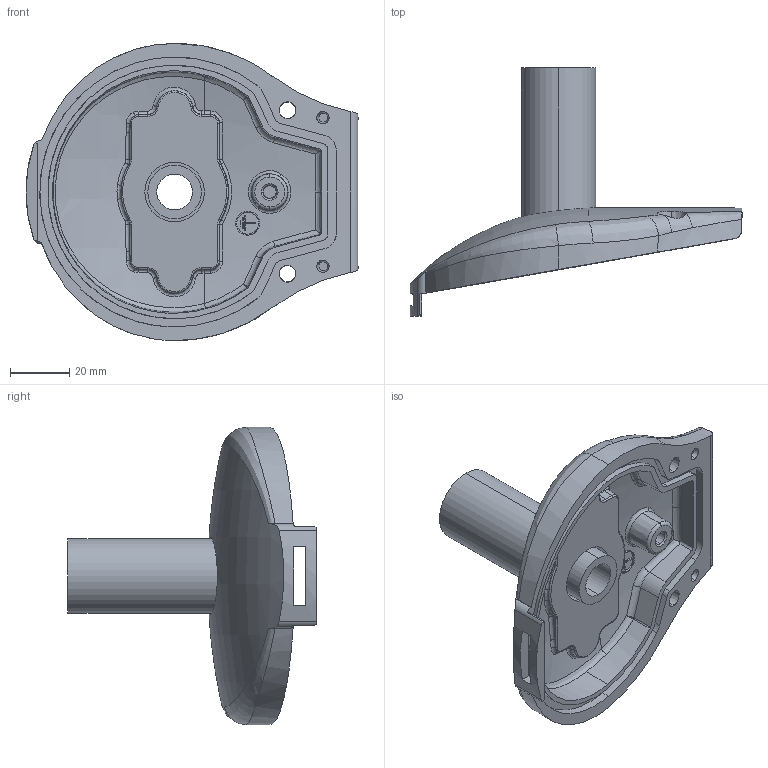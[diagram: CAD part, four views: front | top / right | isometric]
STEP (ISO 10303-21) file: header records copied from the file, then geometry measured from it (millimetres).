
FILE_DESCRIPTION (( 'STEP AP203' ), '1' );
FILE_NAME ('s1mslar.STEP', '2015-11-10T21:32:15', ( '' ), ( '' ), 'SwSTEP 2.0', 'SolidWorks 2014', '' );
FILE_SCHEMA (( 'CONFIG_CONTROL_DESIGN' ));
Length unit declared in the file: millimetre
Products named in the file (3): 89129134; s1mslar; 89129140
Assembly tree (2 placements, depth 2):
  s1mslar
    89129134
    89129140
Bounding box: 111.7 x 83.49 x 100 mm (x, y, z)
Volume: 76244.3 mm3; surface area: 35904.3 mm2
Topology: 2 solids, 2 shells, 260 faces, 661 edges, 414 vertices
Faces by surface type: bspline 95, plane 66, cylinder 64, cone 31, torus 4
Entity records: 15934 total; most frequent: CARTESIAN_POINT 10391, ORIENTED_EDGE 1314, DIRECTION 798, EDGE_CURVE 657, VERTEX_POINT 414, AXIS2_PLACEMENT_3D 303, EDGE_LOOP 283, FACE_OUTER_BOUND 260
